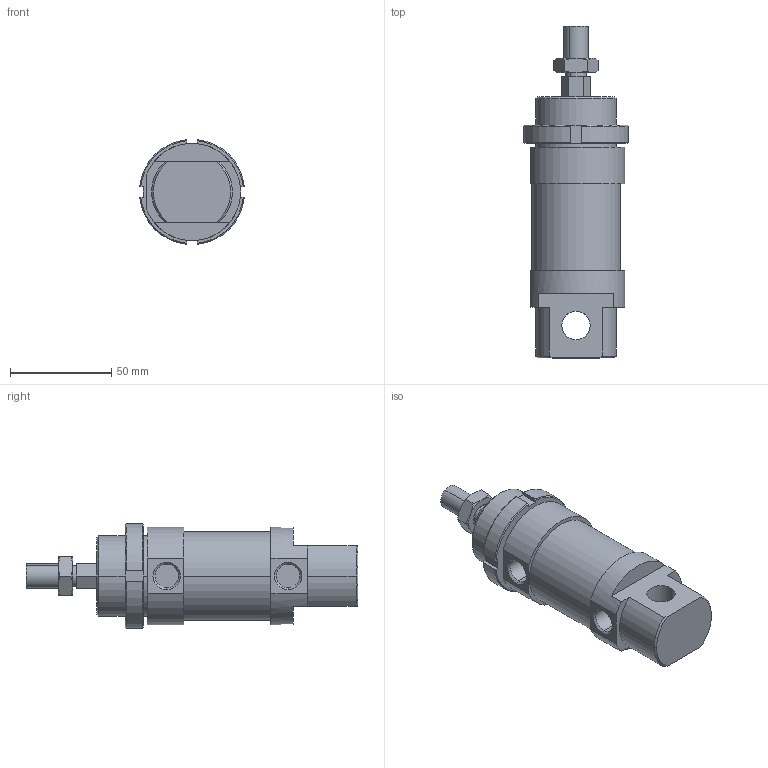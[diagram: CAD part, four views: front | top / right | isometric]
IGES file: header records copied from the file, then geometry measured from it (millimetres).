
Global section: file name: No Iges File Name specified; native system: AutoDesk Inventor R6.0; preprocessor: AutoDesk Inventor Iges Exporter R6.0; author: No Author specified; organization: No Organization specified; date: 20030405.074349; units: millimetre
Bounding box: 51.76 x 164 x 51.76 mm (x, y, z)
Volume: 191034.7 mm3; surface area: 33985.8 mm2
Topology: 4 solids, 4 shells, 126 faces, 298 edges, 188 vertices
Faces by surface type: plane 52, cone 30, cylinder 20, bspline 20, revolution 4
